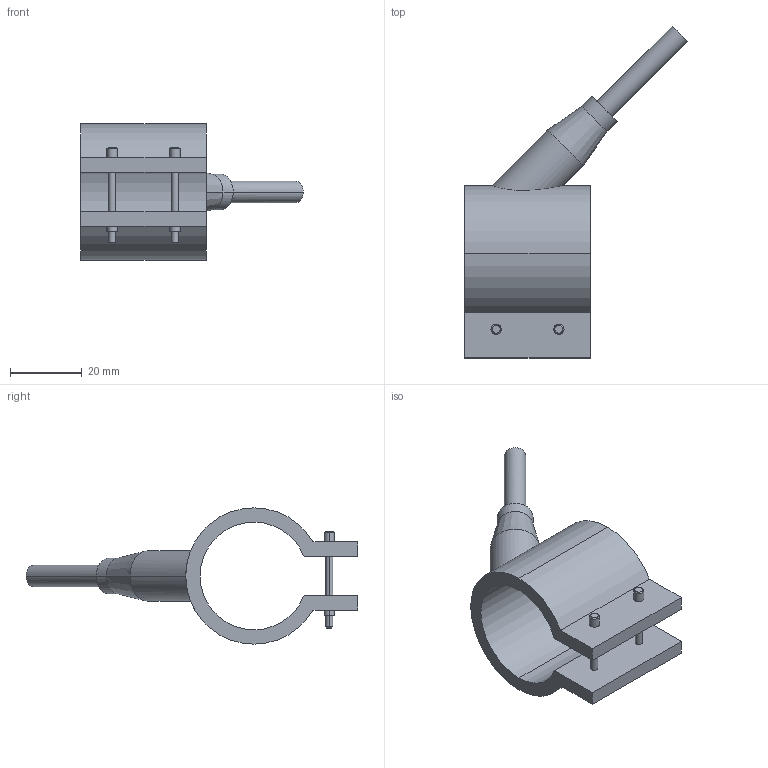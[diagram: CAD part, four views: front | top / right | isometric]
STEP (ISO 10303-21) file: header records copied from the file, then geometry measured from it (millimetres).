
FILE_DESCRIPTION(('CATIA V5 STEP Exchange'),'2;1');
FILE_NAME('C:\Users\Utente\Desktop\IO LAVORO\3D X SITO CF\X SITO\PLASTICA\RF1\29030035.stp','2021-03-27T09:06:44+00:00',('none'),('none'),'CATIA Version 5 Release 20 GA (IN-10)','CATIA V5 STEP AP203','none');
FILE_SCHEMA(('CONFIG_CONTROL_DESIGN'));
Length unit declared in the file: millimetre
Products named in the file (1): 29030035
Bounding box: 62.05 x 92.55 x 38 mm (x, y, z)
Volume: 21606 mm3; surface area: 11469.5 mm2
Topology: 1 solids, 1 shells, 54 faces, 122 edges, 78 vertices
Faces by surface type: cylinder 28, plane 16, cone 10
Entity records: 1731 total; most frequent: CARTESIAN_POINT 500, ORIENTED_EDGE 244, DIRECTION 215, EDGE_CURVE 122, AXIS2_PLACEMENT_3D 108, VERTEX_POINT 78, EDGE_LOOP 66, VECTOR 56
